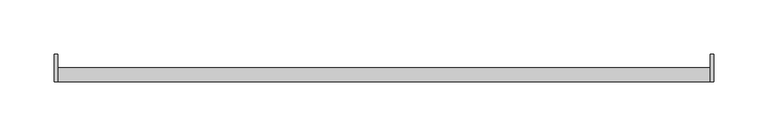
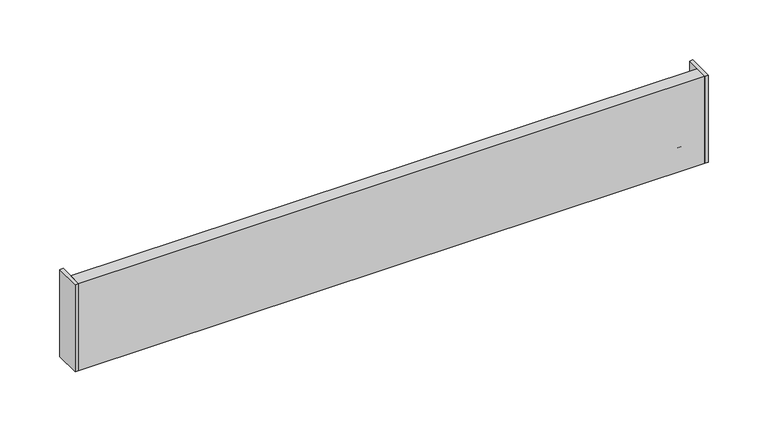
"""IFC4 building model written with IfcOpenShell, lengths in millimetres: furniture geometry."""

from ifc_helpers import new_model, si_unit, frame, origin, place, context, project, spatial, polyline, outline, extrude, source, transform, mapped, element, save


def furniture_6a59721d(model_context):
    return source(origin(), model_context, "Body", "SweptSolid", [
        extrude(outline(polyline([(-301.625, 12.6999996), (-301.625, -12.7000004), (-304.8, -12.7000004), (-304.8, 12.6999996), (-301.625, 12.6999996)])), frame((0.0, 0.0, 825.5), z_axis=(0.0, 0.0, 1.0), x_axis=(1.0, 0.0, 0.0)), (0.0, 0.0, 1.0), 88.9),
        extrude(outline(polyline([(304.8, 12.6999996), (304.8, -12.7000004), (301.625, -12.7000004), (301.625, 12.6999996), (304.8, 12.6999996)])), frame((0.0, 0.0, 825.5), z_axis=(0.0, 0.0, 1.0), x_axis=(1.0, 0.0, 0.0)), (0.0, 0.0, 1.0), 88.9),
        extrude(outline(polyline([(301.625, 0.0), (301.625, -12.7000004), (-301.625, -12.7000004), (-301.625, 0.0), (301.625, 0.0)])), frame((0.0, 0.0, 825.5), z_axis=(0.0, 0.0, 1.0), x_axis=(1.0, 0.0, 0.0)), (0.0, 0.0, 1.0), 88.9),
        extrude(outline(polyline([(-12.7000004, 901.6999966), (-12.7000004, 914.4), (0.0, 914.4), (0.0, 825.5), (-12.7000004, 825.5), (-12.7000004, 850.8999966), (-3.1750002, 850.8999966), (-3.1750002, 863.5999966), (-12.7000004, 863.5999966), (-12.7000004, 888.9999966), (-3.1750002, 888.9999966), (-3.1750002, 901.6999966), (-12.7000004, 901.6999966)])), frame((-301.625, 0.0, 0.0), z_axis=(1.0, 0.0, 0.0), x_axis=(0.0, 1.0, 0.0)), (0.0, 0.0, 1.0), 603.25),
        extrude(outline(polyline([(-12.7000004, 914.4), (0.0, 914.4), (0.0, 901.6999966), (12.6999996, 901.6999966), (12.6999996, 838.199997), (0.0, 838.199997), (0.0, 825.5), (-12.7000004, 825.5), (-12.7000004, 914.4)])), frame((-304.8, 0.0, 0.0), z_axis=(1.0, 0.0, 0.0), x_axis=(0.0, 1.0, 0.0)), (0.0, 0.0, 1.0), 3.175),
        extrude(outline(polyline([(-12.7000004, 914.4), (0.0, 914.4), (0.0, 901.6999966), (12.6999996, 901.6999966), (12.6999996, 838.199997), (0.0, 838.199997), (0.0, 825.5), (-12.7000004, 825.5), (-12.7000004, 914.4)])), frame((301.625, 0.0, 0.0), z_axis=(1.0, 0.0, 0.0), x_axis=(0.0, 1.0, 0.0)), (0.0, 0.0, 1.0), 3.175),
    ])


if __name__ == "__main__":
    model = new_model("IFC4")
    model_context = context("Model", 3, world=origin())
    ifc_project = project(units=[si_unit("LENGTHUNIT", "METRE", prefix="MILLI")], contexts=[model_context])
    site = spatial("IfcSite", under=ifc_project)
    building = spatial("IfcBuilding", under=site)
    placement = place(None, origin())
    furniture_shape = furniture_6a59721d(model_context)
    element("IfcFurniture", 1, ObjectType="HermanMiller_ActionOffice_A3610_ToolBar : 4\"H x 24\"W", at=placement, inside=building, context=model_context, shape_type="MappedRepresentation", body=[
        mapped(furniture_shape, transform((0.0, 0.0, 0.0), x_axis=(1.0, 0.0, 0.0), y_axis=(0.0, 1.0, 0.0), z_axis=(0.0, 0.0, 1.0))),
    ])
    save(model, "model.ifc")
